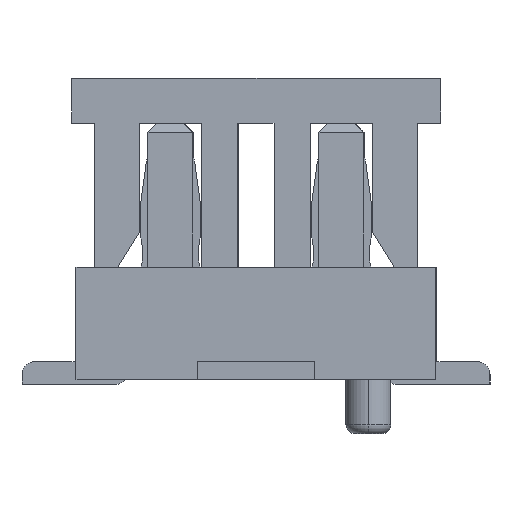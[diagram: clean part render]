
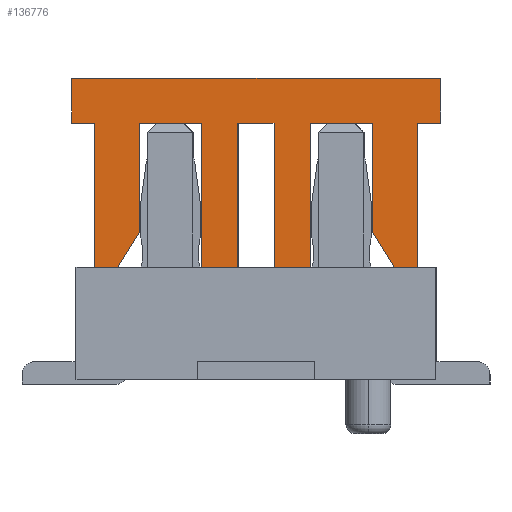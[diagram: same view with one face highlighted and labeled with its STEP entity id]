
A CAD part, left-side view. The second image highlights one B-rep face of the part: STEP entity #136776.
In plain terms, the highlighted planar face has unit normal (-1, 0, 0).
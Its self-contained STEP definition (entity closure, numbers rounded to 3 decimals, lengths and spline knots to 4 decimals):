
#136109=CARTESIAN_POINT('Vertex',(-4.,0.61,1.25)) ;
#136114=CARTESIAN_POINT('Line Origine',(-4.,0.61,2.05)) ;
#136118=CARTESIAN_POINT('Vertex',(-4.,0.61,2.85)) ;
#136145=CARTESIAN_POINT('Line Origine',(-4.,0.95,2.85)) ;
#136149=CARTESIAN_POINT('Vertex',(-4.,1.29,2.85)) ;
#136176=CARTESIAN_POINT('Line Origine',(-4.,1.29,2.25)) ;
#136180=CARTESIAN_POINT('Vertex',(-4.,1.29,1.65)) ;
#136207=CARTESIAN_POINT('Line Origine',(-4.,1.415,1.45)) ;
#136211=CARTESIAN_POINT('Vertex',(-4.,1.54,1.25)) ;
#136238=CARTESIAN_POINT('Line Origine',(-4.,1.665,1.25)) ;
#136242=CARTESIAN_POINT('Vertex',(-4.,1.79,1.25)) ;
#136269=CARTESIAN_POINT('Line Origine',(-4.,1.79,2.05)) ;
#136273=CARTESIAN_POINT('Vertex',(-4.,1.79,2.85)) ;
#136295=CARTESIAN_POINT('Line Origine',(-4.,1.92,2.85)) ;
#136299=CARTESIAN_POINT('Vertex',(-4.,2.05,2.85)) ;
#136326=CARTESIAN_POINT('Line Origine',(-4.,2.05,3.1)) ;
#136330=CARTESIAN_POINT('Vertex',(-4.,2.05,3.35)) ;
#136357=CARTESIAN_POINT('Line Origine',(-4.,0.,3.35)) ;
#136361=CARTESIAN_POINT('Vertex',(-4.,-2.05,3.35)) ;
#136388=CARTESIAN_POINT('Line Origine',(-4.,-2.05,3.1)) ;
#136392=CARTESIAN_POINT('Vertex',(-4.,-2.05,2.85)) ;
#136414=CARTESIAN_POINT('Line Origine',(-4.,-1.92,2.85)) ;
#136418=CARTESIAN_POINT('Vertex',(-4.,-1.79,2.85)) ;
#136445=CARTESIAN_POINT('Line Origine',(-4.,-1.79,2.05)) ;
#136449=CARTESIAN_POINT('Vertex',(-4.,-1.79,1.25)) ;
#136471=CARTESIAN_POINT('Line Origine',(-4.,-1.665,1.25)) ;
#136475=CARTESIAN_POINT('Vertex',(-4.,-1.54,1.25)) ;
#136502=CARTESIAN_POINT('Line Origine',(-4.,-1.415,1.45)) ;
#136506=CARTESIAN_POINT('Vertex',(-4.,-1.29,1.65)) ;
#136533=CARTESIAN_POINT('Line Origine',(-4.,-1.29,2.25)) ;
#136537=CARTESIAN_POINT('Vertex',(-4.,-1.29,2.85)) ;
#136559=CARTESIAN_POINT('Line Origine',(-4.,-0.95,2.85)) ;
#136563=CARTESIAN_POINT('Vertex',(-4.,-0.61,2.85)) ;
#136590=CARTESIAN_POINT('Line Origine',(-4.,-0.61,2.05)) ;
#136594=CARTESIAN_POINT('Vertex',(-4.,-0.61,1.25)) ;
#136616=CARTESIAN_POINT('Line Origine',(-4.,-0.405,1.25)) ;
#136620=CARTESIAN_POINT('Vertex',(-4.,-0.2,1.25)) ;
#136647=CARTESIAN_POINT('Line Origine',(-4.,-0.2,2.05)) ;
#136651=CARTESIAN_POINT('Vertex',(-4.,-0.2,2.85)) ;
#136673=CARTESIAN_POINT('Line Origine',(-4.,0.,2.85)) ;
#136677=CARTESIAN_POINT('Vertex',(-4.,0.2,2.85)) ;
#136704=CARTESIAN_POINT('Line Origine',(-4.,0.2,2.05)) ;
#136708=CARTESIAN_POINT('Vertex',(-4.,0.2,1.25)) ;
#136730=CARTESIAN_POINT('Line Origine',(-4.,0.405,1.25)) ;
#136747=CARTESIAN_POINT('Axis2P3D Location',(-4.,0.,0.)) ;
#136115=DIRECTION('Vector Direction',(0.,0.,1.)) ;
#136146=DIRECTION('Vector Direction',(0.,1.,0.)) ;
#136177=DIRECTION('Vector Direction',(0.,0.,-1.)) ;
#136208=DIRECTION('Vector Direction',(0.,0.53,-0.848)) ;
#136239=DIRECTION('Vector Direction',(0.,1.,0.)) ;
#136270=DIRECTION('Vector Direction',(0.,0.,1.)) ;
#136296=DIRECTION('Vector Direction',(0.,1.,0.)) ;
#136327=DIRECTION('Vector Direction',(0.,0.,1.)) ;
#136358=DIRECTION('Vector Direction',(0.,1.,0.)) ;
#136389=DIRECTION('Vector Direction',(0.,0.,1.)) ;
#136415=DIRECTION('Vector Direction',(0.,-1.,0.)) ;
#136446=DIRECTION('Vector Direction',(0.,0.,1.)) ;
#136472=DIRECTION('Vector Direction',(0.,-1.,0.)) ;
#136503=DIRECTION('Vector Direction',(0.,-0.53,-0.848)) ;
#136534=DIRECTION('Vector Direction',(0.,0.,-1.)) ;
#136560=DIRECTION('Vector Direction',(0.,-1.,0.)) ;
#136591=DIRECTION('Vector Direction',(0.,0.,1.)) ;
#136617=DIRECTION('Vector Direction',(0.,-1.,0.)) ;
#136648=DIRECTION('Vector Direction',(0.,0.,1.)) ;
#136674=DIRECTION('Vector Direction',(0.,1.,0.)) ;
#136705=DIRECTION('Vector Direction',(0.,0.,-1.)) ;
#136731=DIRECTION('Vector Direction',(0.,-1.,0.)) ;
#136748=DIRECTION('Axis2P3D Direction',(1.,0.,0.)) ;
#136749=DIRECTION('Axis2P3D XDirection',(0.,1.,0.)) ;
#136750=AXIS2_PLACEMENT_3D('Plane Axis2P3D',#136747,#136748,#136749) ;
#136753=ORIENTED_EDGE('',*,*,#136734,.F.) ;
#136754=ORIENTED_EDGE('',*,*,#136710,.F.) ;
#136755=ORIENTED_EDGE('',*,*,#136679,.F.) ;
#136756=ORIENTED_EDGE('',*,*,#136653,.F.) ;
#136757=ORIENTED_EDGE('',*,*,#136622,.F.) ;
#136758=ORIENTED_EDGE('',*,*,#136596,.F.) ;
#136759=ORIENTED_EDGE('',*,*,#136565,.F.) ;
#136760=ORIENTED_EDGE('',*,*,#136539,.F.) ;
#136761=ORIENTED_EDGE('',*,*,#136508,.F.) ;
#136762=ORIENTED_EDGE('',*,*,#136477,.F.) ;
#136763=ORIENTED_EDGE('',*,*,#136451,.F.) ;
#136764=ORIENTED_EDGE('',*,*,#136420,.F.) ;
#136765=ORIENTED_EDGE('',*,*,#136394,.F.) ;
#136766=ORIENTED_EDGE('',*,*,#136363,.F.) ;
#136767=ORIENTED_EDGE('',*,*,#136332,.F.) ;
#136768=ORIENTED_EDGE('',*,*,#136301,.F.) ;
#136769=ORIENTED_EDGE('',*,*,#136275,.F.) ;
#136770=ORIENTED_EDGE('',*,*,#136244,.F.) ;
#136771=ORIENTED_EDGE('',*,*,#136213,.F.) ;
#136772=ORIENTED_EDGE('',*,*,#136182,.F.) ;
#136773=ORIENTED_EDGE('',*,*,#136151,.F.) ;
#136774=ORIENTED_EDGE('',*,*,#136120,.F.) ;
#136116=VECTOR('Line Direction',#136115,1.) ;
#136147=VECTOR('Line Direction',#136146,1.) ;
#136178=VECTOR('Line Direction',#136177,1.) ;
#136209=VECTOR('Line Direction',#136208,1.) ;
#136240=VECTOR('Line Direction',#136239,1.) ;
#136271=VECTOR('Line Direction',#136270,1.) ;
#136297=VECTOR('Line Direction',#136296,1.) ;
#136328=VECTOR('Line Direction',#136327,1.) ;
#136359=VECTOR('Line Direction',#136358,1.) ;
#136390=VECTOR('Line Direction',#136389,1.) ;
#136416=VECTOR('Line Direction',#136415,1.) ;
#136447=VECTOR('Line Direction',#136446,1.) ;
#136473=VECTOR('Line Direction',#136472,1.) ;
#136504=VECTOR('Line Direction',#136503,1.) ;
#136535=VECTOR('Line Direction',#136534,1.) ;
#136561=VECTOR('Line Direction',#136560,1.) ;
#136592=VECTOR('Line Direction',#136591,1.) ;
#136618=VECTOR('Line Direction',#136617,1.) ;
#136649=VECTOR('Line Direction',#136648,1.) ;
#136675=VECTOR('Line Direction',#136674,1.) ;
#136706=VECTOR('Line Direction',#136705,1.) ;
#136732=VECTOR('Line Direction',#136731,1.) ;
#136776=ADVANCED_FACE('\X2\76D65B50\X0\',(#136775),#136751,.F.) ;
#136120=EDGE_CURVE('',#136110,#136119,#136117,.T.) ;
#136151=EDGE_CURVE('',#136119,#136150,#136148,.T.) ;
#136182=EDGE_CURVE('',#136150,#136181,#136179,.T.) ;
#136213=EDGE_CURVE('',#136181,#136212,#136210,.T.) ;
#136244=EDGE_CURVE('',#136212,#136243,#136241,.T.) ;
#136275=EDGE_CURVE('',#136243,#136274,#136272,.T.) ;
#136301=EDGE_CURVE('',#136274,#136300,#136298,.T.) ;
#136332=EDGE_CURVE('',#136300,#136331,#136329,.T.) ;
#136363=EDGE_CURVE('',#136331,#136362,#136360,.F.) ;
#136394=EDGE_CURVE('',#136362,#136393,#136391,.F.) ;
#136420=EDGE_CURVE('',#136393,#136419,#136417,.F.) ;
#136451=EDGE_CURVE('',#136419,#136450,#136448,.F.) ;
#136477=EDGE_CURVE('',#136450,#136476,#136474,.F.) ;
#136508=EDGE_CURVE('',#136476,#136507,#136505,.F.) ;
#136539=EDGE_CURVE('',#136507,#136538,#136536,.F.) ;
#136565=EDGE_CURVE('',#136538,#136564,#136562,.F.) ;
#136596=EDGE_CURVE('',#136564,#136595,#136593,.F.) ;
#136622=EDGE_CURVE('',#136595,#136621,#136619,.F.) ;
#136653=EDGE_CURVE('',#136621,#136652,#136650,.T.) ;
#136679=EDGE_CURVE('',#136652,#136678,#136676,.T.) ;
#136710=EDGE_CURVE('',#136678,#136709,#136707,.T.) ;
#136734=EDGE_CURVE('',#136709,#136110,#136733,.F.) ;
#136752=EDGE_LOOP('',(#136753,#136754,#136755,#136756,#136757,#136758,#136759,#136760,#136761,#136762,#136763,#136764,#136765,#136766,#136767,#136768,#136769,#136770,#136771,#136772,#136773,#136774)) ;
#136775=FACE_OUTER_BOUND('',#136752,.T.) ;
#136117=LINE('Line',#136114,#136116) ;
#136148=LINE('Line',#136145,#136147) ;
#136179=LINE('Line',#136176,#136178) ;
#136210=LINE('Line',#136207,#136209) ;
#136241=LINE('Line',#136238,#136240) ;
#136272=LINE('Line',#136269,#136271) ;
#136298=LINE('Line',#136295,#136297) ;
#136329=LINE('Line',#136326,#136328) ;
#136360=LINE('Line',#136357,#136359) ;
#136391=LINE('Line',#136388,#136390) ;
#136417=LINE('Line',#136414,#136416) ;
#136448=LINE('Line',#136445,#136447) ;
#136474=LINE('Line',#136471,#136473) ;
#136505=LINE('Line',#136502,#136504) ;
#136536=LINE('Line',#136533,#136535) ;
#136562=LINE('Line',#136559,#136561) ;
#136593=LINE('Line',#136590,#136592) ;
#136619=LINE('Line',#136616,#136618) ;
#136650=LINE('Line',#136647,#136649) ;
#136676=LINE('Line',#136673,#136675) ;
#136707=LINE('Line',#136704,#136706) ;
#136733=LINE('Line',#136730,#136732) ;
#136751=PLANE('Plane',#136750) ;
#136110=VERTEX_POINT('',#136109) ;
#136119=VERTEX_POINT('',#136118) ;
#136150=VERTEX_POINT('',#136149) ;
#136181=VERTEX_POINT('',#136180) ;
#136212=VERTEX_POINT('',#136211) ;
#136243=VERTEX_POINT('',#136242) ;
#136274=VERTEX_POINT('',#136273) ;
#136300=VERTEX_POINT('',#136299) ;
#136331=VERTEX_POINT('',#136330) ;
#136362=VERTEX_POINT('',#136361) ;
#136393=VERTEX_POINT('',#136392) ;
#136419=VERTEX_POINT('',#136418) ;
#136450=VERTEX_POINT('',#136449) ;
#136476=VERTEX_POINT('',#136475) ;
#136507=VERTEX_POINT('',#136506) ;
#136538=VERTEX_POINT('',#136537) ;
#136564=VERTEX_POINT('',#136563) ;
#136595=VERTEX_POINT('',#136594) ;
#136621=VERTEX_POINT('',#136620) ;
#136652=VERTEX_POINT('',#136651) ;
#136678=VERTEX_POINT('',#136677) ;
#136709=VERTEX_POINT('',#136708) ;
